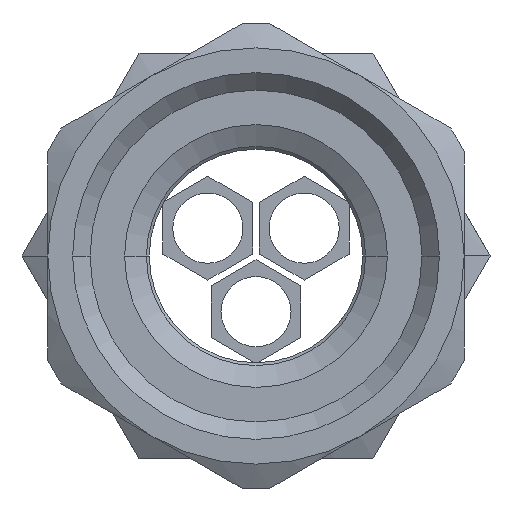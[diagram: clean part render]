
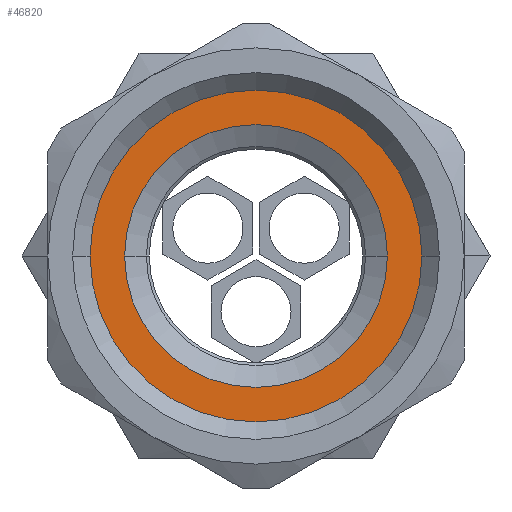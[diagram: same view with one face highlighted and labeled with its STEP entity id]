
A CAD part, front view. The second image highlights one B-rep face of the part: STEP entity #46820.
In plain terms, the highlighted planar face has unit normal (0, -1, 0).
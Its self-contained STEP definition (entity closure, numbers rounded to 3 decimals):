
#46340=CARTESIAN_POINT('',(-302.541,18.635,
0.));
#46350=VERTEX_POINT('',#46340);
#46380=CARTESIAN_POINT('',(-319.291,18.635,
0.));
#46390=DIRECTION('',(0.,-1.,0.));
#46400=DIRECTION('',(-1.,0.,0.));
#46410=AXIS2_PLACEMENT_3D('',#46380,#46390,#46400);
#46420=CIRCLE('',#46410,16.75);
#46430=CARTESIAN_POINT('',(-336.041,18.635,
0.));
#46440=VERTEX_POINT('',#46430);
#46450=EDGE_CURVE('',#46350,#46440,#46420,.T.);
#46570=CARTESIAN_POINT('',(-333.666,18.635,
0.));
#46580=DIRECTION('',(0.,1.,0.));
#46590=DIRECTION('',(1.,0.,0.));
#46600=AXIS2_PLACEMENT_3D('',#46570,#46580,#46590);
#46610=PLANE('',#46600);
#46620=EDGE_CURVE('',#46440,#46350,#46420,.T.);
#46630=ORIENTED_EDGE('',*,*,#46620,.T.);
#46640=ORIENTED_EDGE('',*,*,#46450,.T.);
#46650=EDGE_LOOP('',(#46640,#46630));
#46660=FACE_OUTER_BOUND('',#46650,.T.);
#46670=CARTESIAN_POINT('',(-319.291,18.635,
0.));
#46680=DIRECTION('',(0.,-1.,0.));
#46690=DIRECTION('',(-1.,0.,0.));
#46700=AXIS2_PLACEMENT_3D('',#46670,#46680,#46690);
#46710=CIRCLE('',#46700,12.);
#46720=CARTESIAN_POINT('',(-331.291,18.635,
0.));
#46730=VERTEX_POINT('',#46720);
#46740=CARTESIAN_POINT('',(-307.291,18.635,
0.));
#46750=VERTEX_POINT('',#46740);
#46760=EDGE_CURVE('',#46730,#46750,#46710,.T.);
#46770=ORIENTED_EDGE('',*,*,#46760,.F.);
#46780=EDGE_CURVE('',#46750,#46730,#46710,.T.);
#46790=ORIENTED_EDGE('',*,*,#46780,.F.);
#46800=EDGE_LOOP('',(#46790,#46770));
#46810=FACE_BOUND('',#46800,.T.);
#46820=ADVANCED_FACE('',(#46660,#46810),#46610,.F.);
